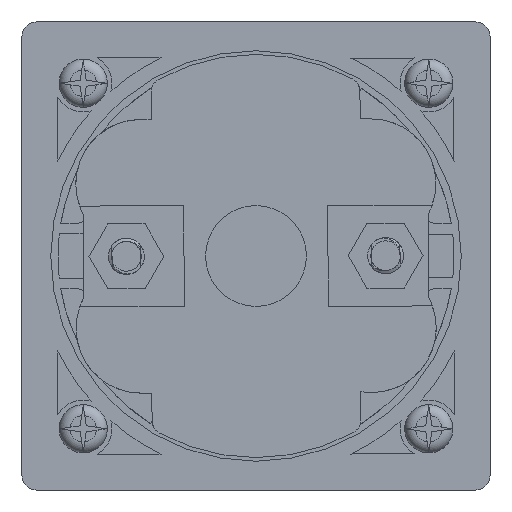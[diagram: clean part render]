
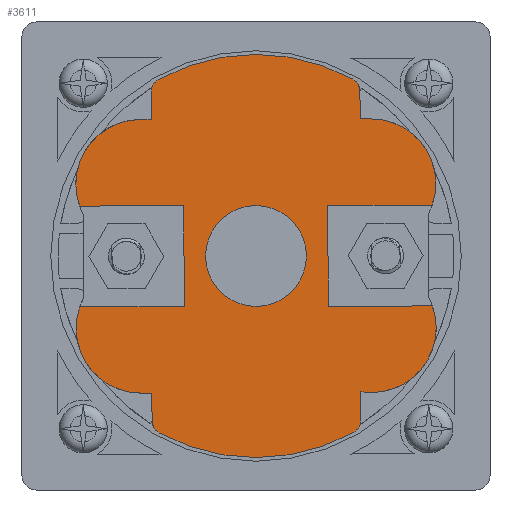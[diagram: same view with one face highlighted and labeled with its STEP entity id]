
A CAD part, front view. The second image highlights one B-rep face of the part: STEP entity #3611.
In plain terms, the highlighted planar face has unit normal (0, -1, 0).
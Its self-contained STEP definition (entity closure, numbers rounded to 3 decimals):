
#1878=FACE_BOUND('',#7581,.T.);
#1879=FACE_BOUND('',#7582,.T.);
#3611=ADVANCED_FACE('',(#1878,#1879),#4658,.F.);
#4658=PLANE('',#30340);
#7581=EDGE_LOOP('',(#18597,#18598,#18599,#18600,#18601,#18602,#18603,#18604,
#18605,#18606,#18607,#18608,#18609,#18610,#18611,#18612,#18613,#18614,#18615,
#18616,#18617,#18618,#18619,#18620,#18621));
#7582=EDGE_LOOP('',(#18622));
#9409=LINE('',#130174,#11432);
#9412=LINE('',#130180,#11435);
#9416=LINE('',#130192,#11439);
#9419=LINE('',#130200,#11442);
#9421=LINE('',#130204,#11444);
#9423=LINE('',#130208,#11446);
#9425=LINE('',#130224,#11448);
#9429=LINE('',#130245,#11452);
#9431=LINE('',#130262,#11454);
#9433=LINE('',#130266,#11456);
#9546=LINE('',#130574,#11569);
#9551=LINE('',#130586,#11574);
#9586=LINE('',#130700,#11609);
#9590=LINE('',#130722,#11613);
#11432=VECTOR('',#35907,1.);
#11435=VECTOR('',#35912,1.);
#11439=VECTOR('',#35924,1.);
#11442=VECTOR('',#35933,1.);
#11444=VECTOR('',#35937,1.);
#11446=VECTOR('',#35941,1.);
#11448=VECTOR('',#35949,1.);
#11452=VECTOR('',#35959,1.);
#11454=VECTOR('',#35969,1.);
#11456=VECTOR('',#35973,1.);
#11569=VECTOR('',#36274,1.);
#11574=VECTOR('',#36289,1.);
#11609=VECTOR('',#36390,1.);
#11613=VECTOR('',#36416,1.);
#18597=ORIENTED_EDGE('',*,*,#26265,.F.);
#18598=ORIENTED_EDGE('',*,*,#26263,.T.);
#18599=ORIENTED_EDGE('',*,*,#26259,.T.);
#18600=ORIENTED_EDGE('',*,*,#26420,.T.);
#18601=ORIENTED_EDGE('',*,*,#26488,.T.);
#18602=ORIENTED_EDGE('',*,*,#26489,.T.);
#18603=ORIENTED_EDGE('',*,*,#26490,.T.);
#18604=ORIENTED_EDGE('',*,*,#26428,.T.);
#18605=ORIENTED_EDGE('',*,*,#26255,.T.);
#18606=ORIENTED_EDGE('',*,*,#26252,.T.);
#18607=ORIENTED_EDGE('',*,*,#26249,.T.);
#18608=ORIENTED_EDGE('',*,*,#26247,.F.);
#18609=ORIENTED_EDGE('',*,*,#26245,.F.);
#18610=ORIENTED_EDGE('',*,*,#26243,.F.);
#18611=ORIENTED_EDGE('',*,*,#26241,.T.);
#18612=ORIENTED_EDGE('',*,*,#26239,.T.);
#18613=ORIENTED_EDGE('',*,*,#26481,.T.);
#18614=ORIENTED_EDGE('',*,*,#26491,.T.);
#18615=ORIENTED_EDGE('',*,*,#26492,.T.);
#18616=ORIENTED_EDGE('',*,*,#26493,.T.);
#18617=ORIENTED_EDGE('',*,*,#26494,.T.);
#18618=ORIENTED_EDGE('',*,*,#26267,.T.);
#18619=ORIENTED_EDGE('',*,*,#26236,.T.);
#18620=ORIENTED_EDGE('',*,*,#26233,.F.);
#18621=ORIENTED_EDGE('',*,*,#26230,.F.);
#18622=ORIENTED_EDGE('',*,*,#26229,.F.);
#22449=VERTEX_POINT('',#130172);
#22450=VERTEX_POINT('',#130175);
#22451=VERTEX_POINT('',#130176);
#22452=VERTEX_POINT('',#130181);
#22454=VERTEX_POINT('',#130187);
#22455=VERTEX_POINT('',#130191);
#22456=VERTEX_POINT('',#130193);
#22457=VERTEX_POINT('',#130197);
#22458=VERTEX_POINT('',#130201);
#22459=VERTEX_POINT('',#130205);
#22460=VERTEX_POINT('',#130209);
#22461=VERTEX_POINT('',#130213);
#22463=VERTEX_POINT('',#130225);
#22465=VERTEX_POINT('',#130237);
#22468=VERTEX_POINT('',#130244);
#22469=VERTEX_POINT('',#130246);
#22471=VERTEX_POINT('',#130259);
#22473=VERTEX_POINT('',#130267);
#22564=VERTEX_POINT('',#130572);
#22568=VERTEX_POINT('',#130587);
#22608=VERTEX_POINT('',#130698);
#22612=VERTEX_POINT('',#130712);
#22613=VERTEX_POINT('',#130714);
#22614=VERTEX_POINT('',#130717);
#22615=VERTEX_POINT('',#130719);
#22616=VERTEX_POINT('',#130721);
#26229=EDGE_CURVE('',#22449,#22449,#28062,.T.);
#26230=EDGE_CURVE('',#22450,#22451,#9409,.T.);
#26233=EDGE_CURVE('',#22451,#22452,#9412,.T.);
#26236=EDGE_CURVE('',#22454,#22452,#28064,.T.);
#26239=EDGE_CURVE('',#22456,#22455,#9416,.T.);
#26241=EDGE_CURVE('',#22457,#22456,#28065,.T.);
#26243=EDGE_CURVE('',#22457,#22458,#9419,.T.);
#26245=EDGE_CURVE('',#22458,#22459,#9421,.T.);
#26247=EDGE_CURVE('',#22459,#22460,#9423,.T.);
#26249=EDGE_CURVE('',#22461,#22460,#28066,.T.);
#26252=EDGE_CURVE('',#22463,#22461,#9425,.T.);
#26255=EDGE_CURVE('',#22465,#22463,#28067,.T.);
#26259=EDGE_CURVE('',#22469,#22468,#9429,.T.);
#26263=EDGE_CURVE('',#22471,#22469,#28069,.T.);
#26265=EDGE_CURVE('',#22471,#22450,#9431,.T.);
#26267=EDGE_CURVE('',#22473,#22454,#9433,.T.);
#26420=EDGE_CURVE('',#22468,#22564,#9546,.T.);
#26428=EDGE_CURVE('',#22568,#22465,#9551,.T.);
#26481=EDGE_CURVE('',#22455,#22608,#9586,.T.);
#26488=EDGE_CURVE('',#22564,#22612,#28131,.T.);
#26489=EDGE_CURVE('',#22612,#22613,#28132,.T.);
#26490=EDGE_CURVE('',#22613,#22568,#28133,.T.);
#26491=EDGE_CURVE('',#22608,#22614,#28134,.T.);
#26492=EDGE_CURVE('',#22614,#22615,#28135,.T.);
#26493=EDGE_CURVE('',#22615,#22616,#28136,.T.);
#26494=EDGE_CURVE('',#22616,#22473,#9590,.T.);
#28062=CIRCLE('',#30174,7.);
#28064=CIRCLE('',#30179,9.);
#28065=CIRCLE('',#30182,9.);
#28066=CIRCLE('',#30187,9.);
#28067=CIRCLE('',#30190,8.96);
#28069=CIRCLE('',#30194,9.);
#28131=CIRCLE('',#30334,2.);
#28132=CIRCLE('',#30335,28.);
#28133=CIRCLE('',#30336,2.);
#28134=CIRCLE('',#30337,2.);
#28135=CIRCLE('',#30338,28.);
#28136=CIRCLE('',#30339,2.);
#30174=AXIS2_PLACEMENT_3D('',#130171,#35903,#35904);
#30179=AXIS2_PLACEMENT_3D('',#130186,#35918,#35919);
#30182=AXIS2_PLACEMENT_3D('',#130196,#35928,#35929);
#30187=AXIS2_PLACEMENT_3D('',#130212,#35945,#35946);
#30190=AXIS2_PLACEMENT_3D('',#130236,#35952,#35953);
#30194=AXIS2_PLACEMENT_3D('',#130258,#35964,#35965);
#30334=AXIS2_PLACEMENT_3D('',#130711,#36404,#36405);
#30335=AXIS2_PLACEMENT_3D('',#130713,#36406,#36407);
#30336=AXIS2_PLACEMENT_3D('',#130715,#36408,#36409);
#30337=AXIS2_PLACEMENT_3D('',#130716,#36410,#36411);
#30338=AXIS2_PLACEMENT_3D('',#130718,#36412,#36413);
#30339=AXIS2_PLACEMENT_3D('',#130720,#36414,#36415);
#30340=AXIS2_PLACEMENT_3D('',#130723,#36417,#36418);
#35903=DIRECTION('',(0.,-1.,0.));
#35904=DIRECTION('',(-1.,0.,-0.003));
#35907=DIRECTION('',(-0.003,0.,1.));
#35912=DIRECTION('',(-1.,0.,-0.003));
#35918=DIRECTION('',(0.,-1.,0.));
#35919=DIRECTION('',(-1.,0.,-0.003));
#35924=DIRECTION('',(-1.,0.,-0.003));
#35928=DIRECTION('',(0.,-1.,0.));
#35929=DIRECTION('',(1.,0.,0.003));
#35933=DIRECTION('',(-1.,0.,-0.003));
#35937=DIRECTION('',(0.003,0.,-1.));
#35941=DIRECTION('',(1.,0.,0.003));
#35945=DIRECTION('',(0.,-1.,0.));
#35946=DIRECTION('',(0.,0.,-1.));
#35949=DIRECTION('',(1.,0.,0.003));
#35952=DIRECTION('',(0.,-1.,0.));
#35953=DIRECTION('',(0.,0.,-1.));
#35959=DIRECTION('',(1.,0.,0.003));
#35964=DIRECTION('',(0.,-1.,0.));
#35965=DIRECTION('',(-0.89,0.,0.456));
#35969=DIRECTION('',(1.,0.,0.003));
#35973=DIRECTION('',(-1.,0.,-0.003));
#36274=DIRECTION('',(0.003,0.,-1.));
#36289=DIRECTION('',(-0.003,0.,1.));
#36390=DIRECTION('',(-0.003,0.,1.));
#36404=DIRECTION('',(0.,-1.,0.));
#36405=DIRECTION('',(1.,0.,0.003));
#36406=DIRECTION('',(0.,-1.,0.));
#36407=DIRECTION('',(1.,0.,0.003));
#36408=DIRECTION('',(0.,-1.,0.));
#36409=DIRECTION('',(1.,0.,0.003));
#36410=DIRECTION('',(0.,-1.,0.));
#36411=DIRECTION('',(1.,0.,0.003));
#36412=DIRECTION('',(0.,-1.,0.));
#36413=DIRECTION('',(1.,0.,0.003));
#36414=DIRECTION('',(0.,-1.,0.));
#36415=DIRECTION('',(1.,0.,0.003));
#36416=DIRECTION('',(0.003,0.,-1.));
#36417=DIRECTION('',(0.,1.,0.));
#36418=DIRECTION('',(0.,0.,1.));
#130171=CARTESIAN_POINT('',(0.,-108.1,0.));
#130172=CARTESIAN_POINT('',(-7.,-108.1,-0.018));
#130174=CARTESIAN_POINT('',(-9.982,-108.1,-7.026));
#130175=CARTESIAN_POINT('',(-9.982,-108.1,-7.026));
#130176=CARTESIAN_POINT('',(-10.018,-108.1,6.974));
#130180=CARTESIAN_POINT('',(-10.018,-108.1,6.974));
#130181=CARTESIAN_POINT('',(-24.503,-108.1,6.937));
#130186=CARTESIAN_POINT('',(-16.026,-108.1,9.959));
#130187=CARTESIAN_POINT('',(-16.049,-108.1,18.959));
#130191=CARTESIAN_POINT('',(14.451,-108.1,19.037));
#130192=CARTESIAN_POINT('',(15.951,-108.1,19.041));
#130193=CARTESIAN_POINT('',(15.951,-108.1,19.041));
#130196=CARTESIAN_POINT('',(15.974,-108.1,10.041));
#130197=CARTESIAN_POINT('',(24.467,-108.1,7.063));
#130200=CARTESIAN_POINT('',(34.164,-108.1,7.088));
#130201=CARTESIAN_POINT('',(9.982,-108.1,7.026));
#130204=CARTESIAN_POINT('',(9.982,-108.1,7.026));
#130205=CARTESIAN_POINT('',(10.018,-108.1,-6.974));
#130208=CARTESIAN_POINT('',(10.018,-108.1,-6.974));
#130209=CARTESIAN_POINT('',(24.503,-108.1,-6.937));
#130212=CARTESIAN_POINT('',(16.026,-108.1,-9.959));
#130213=CARTESIAN_POINT('',(16.119,-108.1,-18.958));
#130224=CARTESIAN_POINT('',(23.752,-108.1,-18.938));
#130225=CARTESIAN_POINT('',(15.978,-108.1,-18.959));
#130236=CARTESIAN_POINT('',(16.02,-108.1,-9.999));
#130237=CARTESIAN_POINT('',(14.548,-108.1,-18.837));
#130244=CARTESIAN_POINT('',(-14.451,-108.1,-19.037));
#130245=CARTESIAN_POINT('',(23.753,-108.1,-18.934));
#130246=CARTESIAN_POINT('',(-15.951,-108.1,-19.041));
#130258=CARTESIAN_POINT('',(-15.974,-108.1,-10.041));
#130259=CARTESIAN_POINT('',(-24.468,-108.1,-7.063));
#130262=CARTESIAN_POINT('',(-34.164,-108.1,-7.088));
#130266=CARTESIAN_POINT('',(-14.549,-108.1,18.963));
#130267=CARTESIAN_POINT('',(-14.549,-108.1,18.963));
#130572=CARTESIAN_POINT('',(-14.441,-108.1,-22.835));
#130574=CARTESIAN_POINT('',(-14.451,-108.1,-19.037));
#130586=CARTESIAN_POINT('',(14.558,-108.1,-22.761));
#130587=CARTESIAN_POINT('',(14.558,-108.1,-22.761));
#130698=CARTESIAN_POINT('',(14.441,-108.1,22.835));
#130700=CARTESIAN_POINT('',(14.451,-108.1,19.037));
#130711=CARTESIAN_POINT('',(-12.441,-108.1,-22.83));
#130712=CARTESIAN_POINT('',(-13.398,-108.1,-24.586));
#130713=CARTESIAN_POINT('',(0.,-108.1,0.));
#130714=CARTESIAN_POINT('',(13.525,-108.1,-24.517));
#130715=CARTESIAN_POINT('',(12.558,-108.1,-22.766));
#130716=CARTESIAN_POINT('',(12.441,-108.1,22.83));
#130717=CARTESIAN_POINT('',(13.398,-108.1,24.586));
#130718=CARTESIAN_POINT('',(0.,-108.1,0.));
#130719=CARTESIAN_POINT('',(-13.525,-108.1,24.517));
#130720=CARTESIAN_POINT('',(-12.558,-108.1,22.766));
#130721=CARTESIAN_POINT('',(-14.558,-108.1,22.761));
#130722=CARTESIAN_POINT('',(-14.558,-108.1,22.761));
#130723=CARTESIAN_POINT('',(23.741,-108.1,-14.593));
